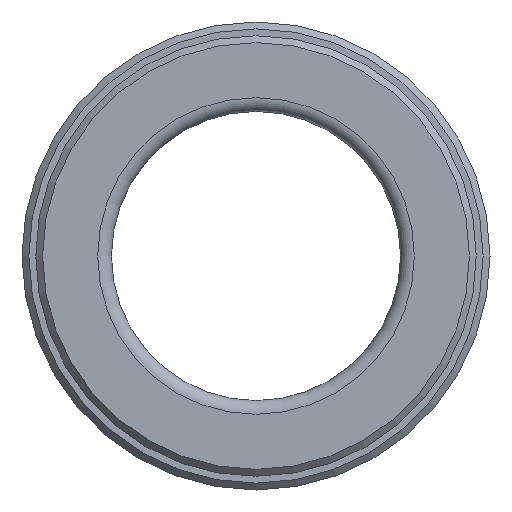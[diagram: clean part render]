
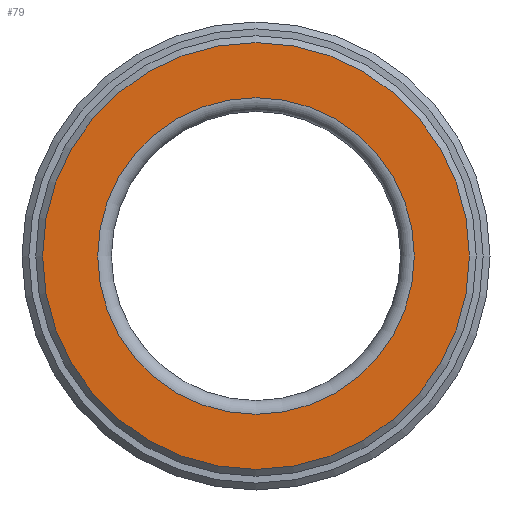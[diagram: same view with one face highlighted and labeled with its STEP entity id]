
A CAD part, front view. The second image highlights one B-rep face of the part: STEP entity #79.
In plain terms, the highlighted planar face has unit normal (0, -1, 0).
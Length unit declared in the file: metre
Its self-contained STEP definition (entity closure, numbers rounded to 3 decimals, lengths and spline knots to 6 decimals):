
#79 = ADVANCED_FACE( '', ( #105, #106 ), #107, .T. );
#105 = FACE_OUTER_BOUND( '', #165, .T. );
#106 = FACE_BOUND( '', #166, .T. );
#107 = PLANE( '', #167 );
#165 = EDGE_LOOP( '', ( #229 ) );
#166 = EDGE_LOOP( '', ( #230 ) );
#167 = AXIS2_PLACEMENT_3D( '', #231, #232, #233 );
#229 = ORIENTED_EDGE( '', *, *, #322, .T. );
#230 = ORIENTED_EDGE( '', *, *, #319, .F. );
#231 = CARTESIAN_POINT( '', ( 0.0115, -0.02, 0. ) );
#232 = DIRECTION( '', ( 0., -1., 0. ) );
#233 = DIRECTION( '', ( 0., 0., -1. ) );
#319 = EDGE_CURVE( '', #339, #339, #340, .T. );
#322 = EDGE_CURVE( '', #345, #345, #346, .T. );
#339 = VERTEX_POINT( '', #379 );
#340 = CIRCLE( '', #380, 0.0115 );
#345 = VERTEX_POINT( '', #385 );
#346 = CIRCLE( '', #386, 0.0155 );
#379 = CARTESIAN_POINT( '', ( 0., -0.02, -0.0115 ) );
#380 = AXIS2_PLACEMENT_3D( '', #419, #420, #421 );
#385 = CARTESIAN_POINT( '', ( 0., -0.02, -0.0155 ) );
#386 = AXIS2_PLACEMENT_3D( '', #428, #429, #430 );
#419 = CARTESIAN_POINT( '', ( 0., -0.02, 0. ) );
#420 = DIRECTION( '', ( 0., -1., 0. ) );
#421 = DIRECTION( '', ( 0., 0., -1. ) );
#428 = CARTESIAN_POINT( '', ( 0., -0.02, 0. ) );
#429 = DIRECTION( '', ( 0., -1., 0. ) );
#430 = DIRECTION( '', ( 0., 0., -1. ) );
